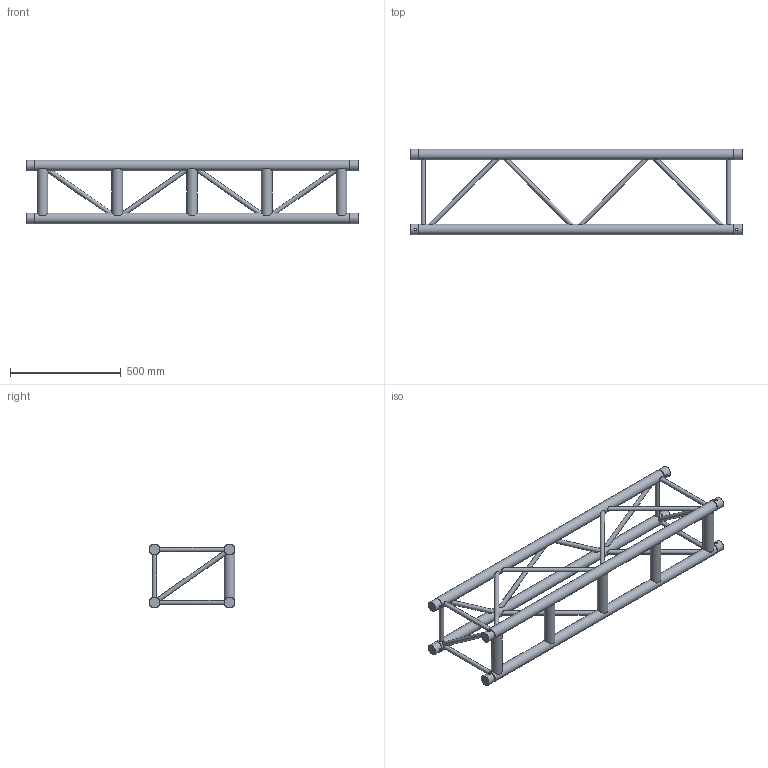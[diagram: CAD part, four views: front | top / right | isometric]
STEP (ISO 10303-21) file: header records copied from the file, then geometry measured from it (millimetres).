
FILE_DESCRIPTION(/* description */ (''),/* implementation_level */ '2;1');
FILE_NAME(/* name */ 'C:\Users\adrian.toca\Desktop\111050502.stp',/* time_stamp */ '2016-09-16T11:10:03+03:00',/* author */ ('adrian.toca'),/* organization */ (''),/* preprocessor_version */ 'ST-DEVELOPER v15.6',/* originating_system */ 'Autodesk Inventor 2015',/* authorisation */ '');
FILE_SCHEMA (('AUTOMOTIVE_DESIGN { 1 0 10303 214 3 1 1 }'));
Length unit declared in the file: millimetre
Products named in the file (1): 260030878
Bounding box: 1500 x 387.3 x 287.3 mm (x, y, z)
Volume: 14422959.2 mm3; surface area: 1522157.6 mm2
Topology: 11 solids, 13 shells, 157 faces, 375 edges, 240 vertices
Faces by surface type: plane 84, cylinder 65, cone 8
Full cylindrical faces by diameter (mm): 10 x8, 20 x20, 48.3 x17
Entity records: 5594 total; most frequent: CARTESIAN_POINT 2274, DIRECTION 646, ORIENTED_EDGE 564, AXIS2_PLACEMENT_3D 302, EDGE_CURVE 268, EDGE_LOOP 262, VERTEX_POINT 204, STYLED_ITEM 138
